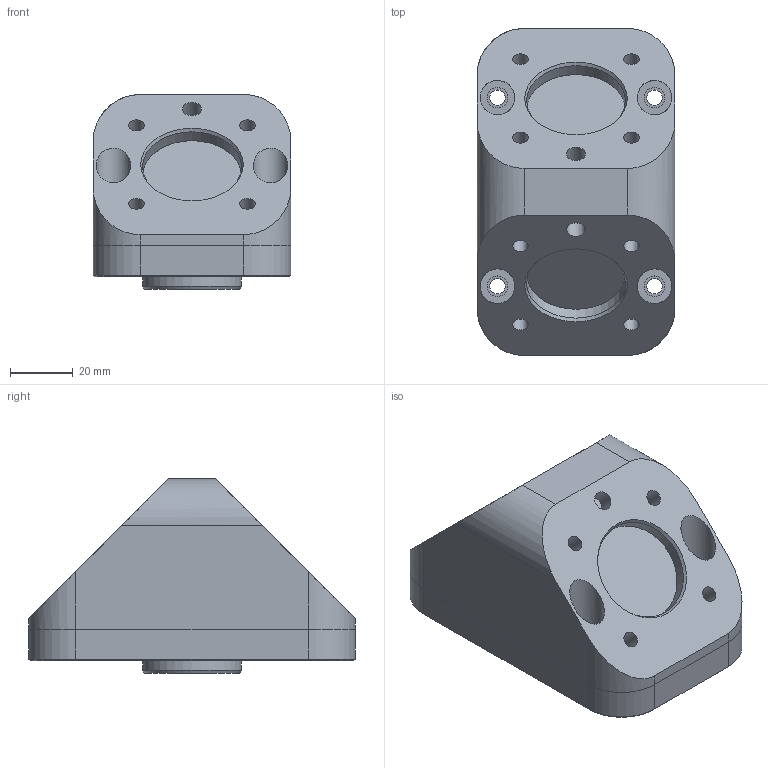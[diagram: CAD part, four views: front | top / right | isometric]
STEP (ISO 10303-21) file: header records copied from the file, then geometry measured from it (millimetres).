
FILE_DESCRIPTION(/* description */ (''),/* implementation_level */ '2;1');
FILE_NAME(/* name */ 'D:\Flanschadapter\Sonder\FL-ISO50-2ISO50-90DEG\Modell\FL-ISO50-2ISO50-90DEG - CUSTOMER.stp',/* time_stamp */ '2020-09-14T14:07:28+02:00',/* author */ ('Karsten'),/* organization */ (''),/* preprocessor_version */ 'ST-DEVELOPER v17',/* originating_system */ 'Autodesk Inventor 2018',/* authorisation */ '');
FILE_SCHEMA (('AUTOMOTIVE_DESIGN { 1 0 10303 214 3 1 1 }'));
Length unit declared in the file: millimetre
Products named in the file (3): FL-ISO50-2ISO50-90DEG - CUSTOMER; FL-ISO50-2ISO50-90Grd - Grundplatte; FL-ISO50-2ISO50-90Grd - Aufsatz
Assembly tree (2 placements, depth 2):
  FL-ISO50-2ISO50-90DEG - CUSTOMER
    FL-ISO50-2ISO50-90Grd - Grundplatte
    FL-ISO50-2ISO50-90Grd - Aufsatz
Bounding box: 63 x 104 x 62 mm (x, y, z)
Volume: 232300.1 mm3; surface area: 43495.4 mm2
Topology: 2 solids, 2 shells, 105 faces, 265 edges, 193 vertices
Faces by surface type: cylinder 51, plane 47, cone 7
Full cylindrical faces by diameter (mm): 4.917 x12, 6 x10, 6.5 x8, 11 x8, 31.5 x3
Entity records: 3471 total; most frequent: DIRECTION 654, CARTESIAN_POINT 568, ORIENTED_EDGE 530, AXIS2_PLACEMENT_3D 279, EDGE_CURVE 265, VERTEX_POINT 193, EDGE_LOOP 158, CIRCLE 157
